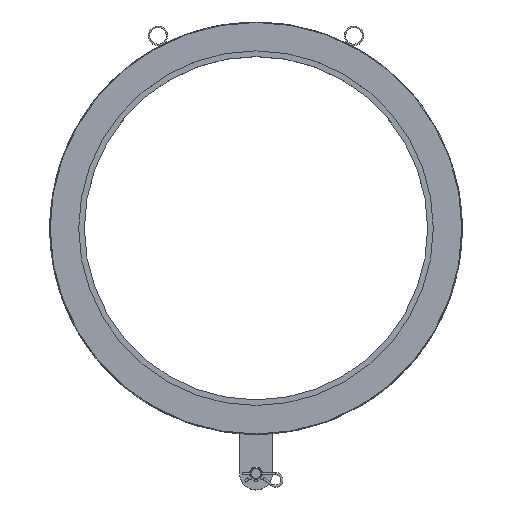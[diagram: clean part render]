
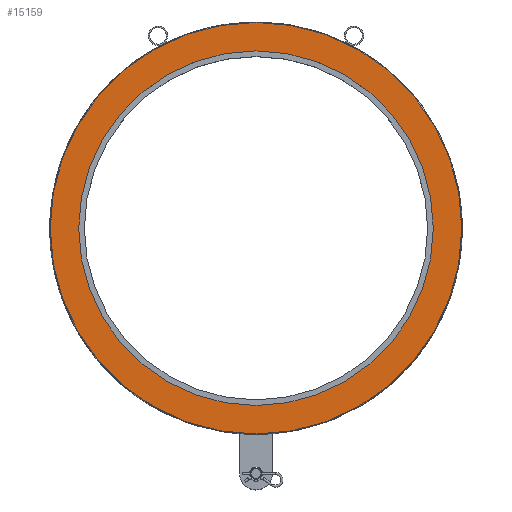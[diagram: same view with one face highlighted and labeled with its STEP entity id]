
A CAD part, top view. The second image highlights one B-rep face of the part: STEP entity #15159.
In plain terms, the highlighted planar face has unit normal (0, 0, 1).
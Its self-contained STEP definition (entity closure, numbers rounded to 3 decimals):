
#520=FACE_BOUND('',#3398,.T.);
#1656=PLANE('',#15965);
#2470=FACE_OUTER_BOUND('',#3397,.T.);
#3397=EDGE_LOOP('',(#13883));
#3398=EDGE_LOOP('',(#13884));
#5857=CIRCLE('',#15961,407.5);
#5858=CIRCLE('',#15963,473.);
#7325=VERTEX_POINT('',#36131);
#7326=VERTEX_POINT('',#36135);
#9528=EDGE_CURVE('',#7325,#7325,#5857,.T.);
#9530=EDGE_CURVE('',#7326,#7326,#5858,.T.);
#13883=ORIENTED_EDGE('',*,*,#9530,.F.);
#13884=ORIENTED_EDGE('',*,*,#9528,.T.);
#15159=ADVANCED_FACE('',(#2470,#520),#1656,.T.);
#15961=AXIS2_PLACEMENT_3D('',#36132,#18507,#18508);
#15963=AXIS2_PLACEMENT_3D('',#36136,#18512,#18513);
#15965=AXIS2_PLACEMENT_3D('',#36139,#18517,#18518);
#18507=DIRECTION('center_axis',(0.,0.,
-1.));
#18508=DIRECTION('ref_axis',(-1.,0.,0.));
#18512=DIRECTION('center_axis',(0.,0.,
-1.));
#18513=DIRECTION('ref_axis',(-1.,0.,0.));
#18517=DIRECTION('center_axis',(0.,0.,
1.));
#18518=DIRECTION('ref_axis',(-1.,0.,0.));
#36131=CARTESIAN_POINT('',(407.5,0.,140.));
#36132=CARTESIAN_POINT('Origin',(0.,0.,
140.));
#36135=CARTESIAN_POINT('',(473.,0.,140.));
#36136=CARTESIAN_POINT('Origin',(0.,0.,
140.));
#36139=CARTESIAN_POINT('Origin',(0.,0.,
140.));
